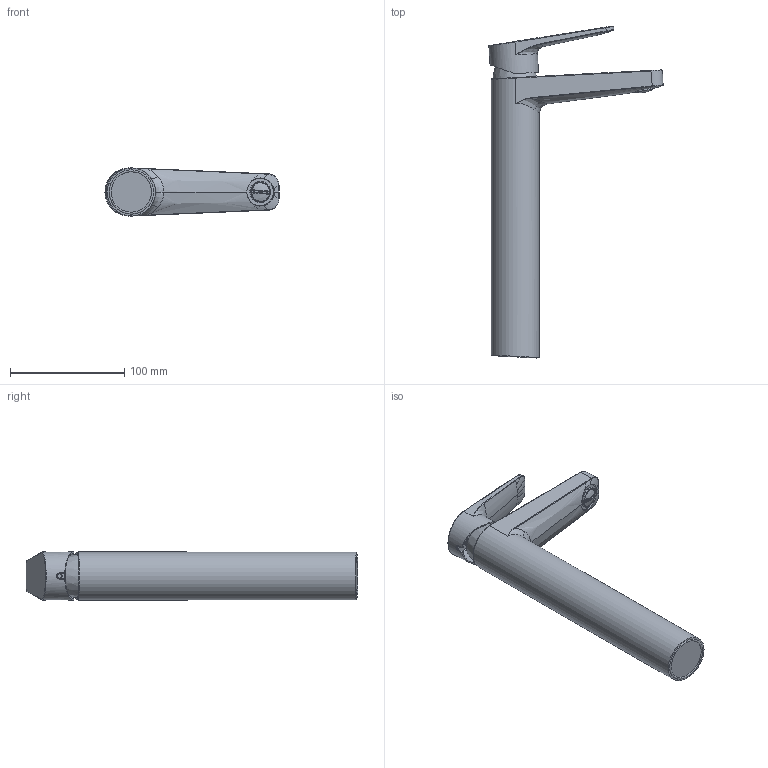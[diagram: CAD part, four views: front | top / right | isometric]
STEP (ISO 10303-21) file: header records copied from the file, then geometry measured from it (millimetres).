
FILE_DESCRIPTION(/* description */ (''),/* implementation_level */ '2;1');
FILE_NAME(/* name */ 'C:\Users\mlarrea\Desktop\3D-Z181-02E-L6-0-CH.stp',/* time_stamp */ '2018-08-22T08:00:03-03:00',/* author */ ('mlarrea'),/* organization */ (''),/* preprocessor_version */ 'ST-DEVELOPER v17',/* originating_system */ 'Autodesk Inventor 2018',/* authorisation */ '');
FILE_SCHEMA (('AUTOMOTIVE_DESIGN { 1 0 10303 214 3 1 1 }'));
Length unit declared in the file: millimetre
Products named in the file (1): Pieza3
Bounding box: 152.16 x 290.09 x 42 mm (x, y, z)
Volume: 450820.8 mm3; surface area: 62369.1 mm2
Topology: 1 solids, 1 shells, 649 faces, 1828 edges, 1191 vertices
Faces by surface type: plane 456, bspline 118, cylinder 48, sphere 18, torus 7, cone 2
Full cylindrical faces by diameter (mm): 5 x1, 17.1 x1, 18.3 x1, 23.7 x1, 24.5 x1, 42 x2
Entity records: 33335 total; most frequent: CARTESIAN_POINT 16848, ORIENTED_EDGE 3648, DIRECTION 2784, EDGE_CURVE 1824, VERTEX_POINT 1191, LINE 1112, VECTOR 1112, AXIS2_PLACEMENT_3D 836
